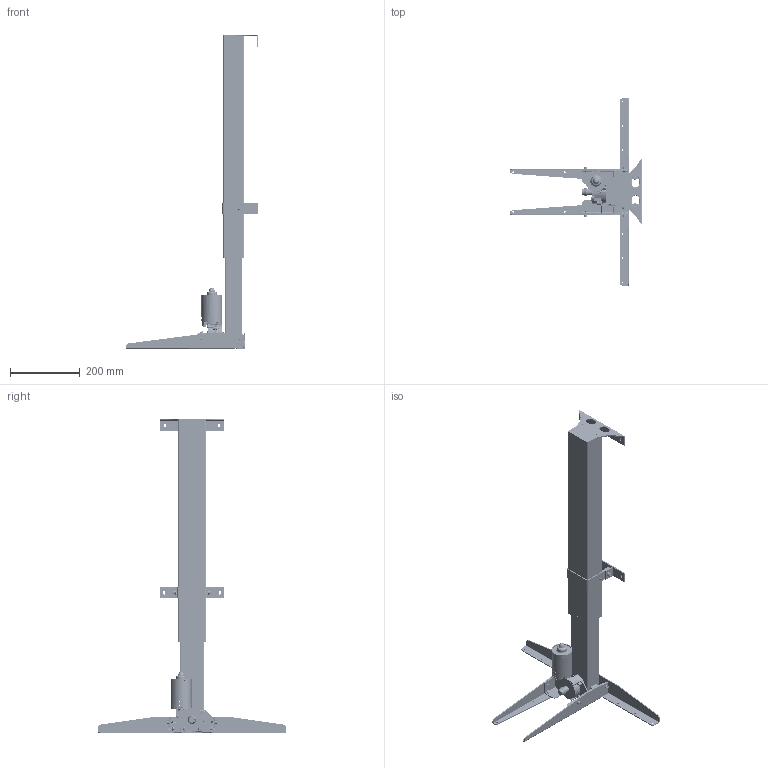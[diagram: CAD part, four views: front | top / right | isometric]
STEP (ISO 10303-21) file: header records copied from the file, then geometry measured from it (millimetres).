
FILE_DESCRIPTION (( 'STEP AP203' ), '1' );
FILE_NAME ('Hjemmeside RenderingerTech-draw_501-9_XXW01.STEP', '2023-10-30T14:06:07', ( '' ), ( '' ), 'SwSTEP 2.0', 'SolidWorks 2023', '' );
FILE_SCHEMA (( 'CONFIG_CONTROL_DESIGN' ));
Length unit declared in the file: millimetre
Products named in the file (61): 356360; 355150; 359250; 346850; 345000; 355210_Part 1; 345880; 353370; 142840; 322560_With thread; Hjemmeside RenderingerTech-draw_501-9_XXW01; 158320_Shell; 346830; 160270_501-9 7WW01; 359170; 346810; 157520_Shell; 346740; 341800_silver; 300590_Washer, M6; 142830; 155690; 357890; 141560; 600470; 301890_Bend 3; 356460_Part 2; 346140; 157530; 300620; 346840; 359310_Versjk; 345900; 346760; 322650_bench; 157540_shell view; 346820; 358970_Shell; 346800; 321760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
Assembly tree (96 placements, depth 6):
  Hjemmeside RenderingerTech-draw_501-9_XXW01
    160270_501-9 7WW01
      157520_Shell
        157530
          358960
          345090
        341800_silver  x4
        141560  x2
          322650_bench
          301890_Bend 3
          345880
        306980  x4
        314130  x2
        157540_shell view
          158320_Shell
            358970_Shell
          157660
            359250
            359310_Versjk  x2
            345000
            359170
        358760  x2
        157800_For desk file
          346140
          320130
          600470
          142830
            346740
            346730
            346750
          314130  x4
          142840
            346760
            346770
          346780  x2
          142850
            346820  x2
            346850
            346810  x2
            346830
            346840
          346790  x2
          346800
          321760
          346900
          353370
        357890  x2
        359480_Simplify_1  x2
        357630_Simplify_1  x2
      355150
      322560_With thread  x8
      357890  x4
      355270
      355160
      355190_Default<As Machined>
      355200
      356360
      155690
        356460_Part 2
        355210_Part 1  x2
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Bounding box: 381.8 x 540 x 903.26 mm (x, y, z)
Volume: 1198792.4 mm3; surface area: 1113639.3 mm2
Topology: 86 solids, 86 shells, 5680 faces, 14992 edges, 9714 vertices
Faces by surface type: plane 2890, cylinder 1321, bspline 908, cone 368, torus 185, sphere 8
Full cylindrical faces by diameter (mm): 1.2 x12, 1.8 x1, 1.9 x6, 2 x10, 2.2 x2, 2.3 x4, 2.5 x2, 3 x7, 3.1 x2, 3.5 x2, 3.8 x2, 4 x37, 4.1 x1, 4.3 x4, 4.5 x3, 4.98 x2, 5 x35, 5.2 x1, 5.5 x5, 6 x2, 6.1 x2, 6.4 x2, 6.5 x4, 7 x2, 7.2 x1, 7.5 x6, 7.9 x2, 8 x4, 8.2 x2, 8.8 x1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
Entity records: 210764 total; most frequent: CARTESIAN_POINT 100661, ORIENTED_EDGE 23078, DIRECTION 18417, EDGE_CURVE 11539, VERTEX_POINT 7575, AXIS2_PLACEMENT_3D 6213, VECTOR 5991, LINE 5991
